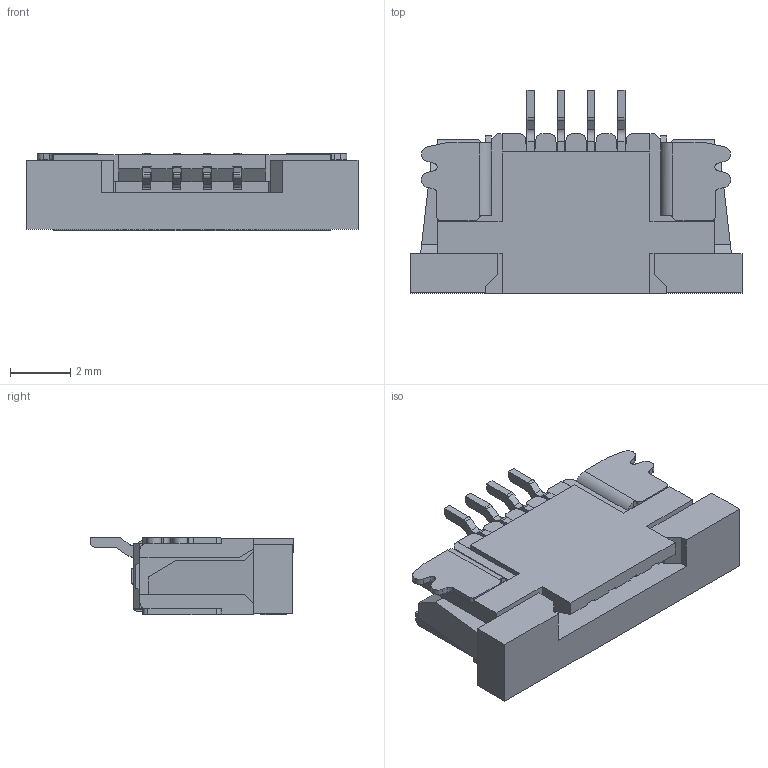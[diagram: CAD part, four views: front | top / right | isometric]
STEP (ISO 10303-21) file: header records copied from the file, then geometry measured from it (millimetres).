
FILE_DESCRIPTION((''),'2;1');
FILE_NAME('1_0K-FX-4PWB_ASM','2026-05-13T',('PMT1 SFT'),(''),'PRO/ENGINEER BY PARAMETRIC TECHNOLOGY CORPORATION, 2011490','PRO/ENGINEER BY PARAMETRIC TECHNOLOGY CORPORATION, 2011490','');
FILE_SCHEMA(('CONFIG_CONTROL_DESIGN'));
Length unit declared in the file: millimetre
Products named in the file (10): MANIFOLD_SOLID_BREP_147; MANIFOLD_SOLID_BREP_148; MANIFOLD_SOLID_BREP_149; MANIFOLD_SOLID_BREP_150; MANIFOLD_SOLID_BREP_151; MANIFOLD_SOLID_BREP_152; MANIFOLD_SOLID_BREP_153; MANIFOLD_SOLID_BREP_154; 1_0K-FX-PWB_ASM; 1_0K-FX-4PWB_ASM
Assembly tree (9 placements, depth 3):
  1_0K-FX-4PWB_ASM
    1_0K-FX-PWB_ASM
      MANIFOLD_SOLID_BREP_147
      MANIFOLD_SOLID_BREP_148
      MANIFOLD_SOLID_BREP_149
      MANIFOLD_SOLID_BREP_150
      MANIFOLD_SOLID_BREP_151
      MANIFOLD_SOLID_BREP_152
      MANIFOLD_SOLID_BREP_153
      MANIFOLD_SOLID_BREP_154
Bounding box: 11 x 6.75 x 2.58 mm (x, y, z)
Volume: 108.7 mm3; surface area: 483.8 mm2
Topology: 8 solids, 8 shells, 649 faces, 1910 edges, 1280 vertices
Faces by surface type: plane 422, cylinder 219, bspline 4, torus 4
Entity records: 22104 total; most frequent: CARTESIAN_POINT 4089, ORIENTED_EDGE 3820, DIRECTION 3712, EDGE_CURVE 1910, VECTOR 1408, LINE 1408, VERTEX_POINT 1280, AXIS2_PLACEMENT_3D 1152
